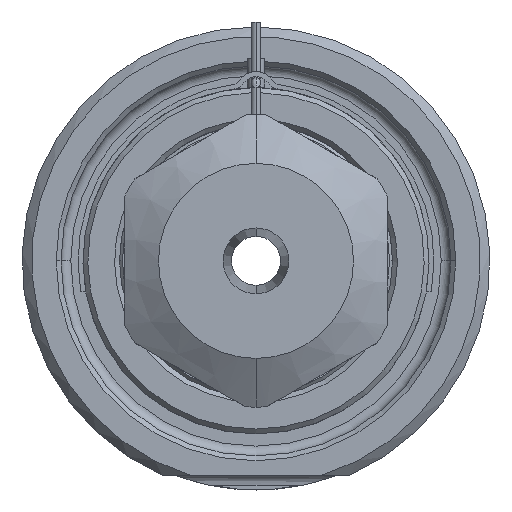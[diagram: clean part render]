
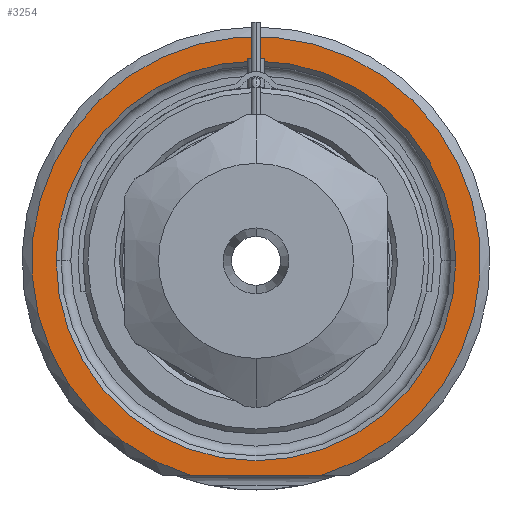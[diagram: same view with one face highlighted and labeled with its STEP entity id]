
A CAD part, front view. The second image highlights one B-rep face of the part: STEP entity #3254.
In plain terms, the highlighted planar face has unit normal (0, -1, 0).
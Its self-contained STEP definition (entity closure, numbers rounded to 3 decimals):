
#1=DIRECTION('',(1.,0.,0.));
#2=VECTOR('',#1,13.416);
#3=CARTESIAN_POINT('',(-6.708,0.,-22.));
#4=LINE('',#3,#2);
#5=CARTESIAN_POINT('',(0.,0.,0.));
#6=DIRECTION('',(0.,1.,0.));
#7=DIRECTION('',(-1.,0.,0.));
#8=AXIS2_PLACEMENT_3D('',#5,#6,#7);
#10=CARTESIAN_POINT('',(0.,0.,0.));
#11=DIRECTION('',(0.,1.,0.));
#12=DIRECTION('',(1.,0.,0.));
#13=AXIS2_PLACEMENT_3D('',#10,#11,#12);
#121=CARTESIAN_POINT('',(0.,0.,0.));
#122=DIRECTION('',(0.,-1.,0.));
#123=DIRECTION('',(0.292,0.,-0.957));
#124=AXIS2_PLACEMENT_3D('',#121,#122,#123);
#2703=CARTESIAN_POINT('',(-20.5,0.,0.));
#2704=CARTESIAN_POINT('',(20.5,0.,0.));
#2705=VERTEX_POINT('',#2703);
#2706=VERTEX_POINT('',#2704);
#2743=CARTESIAN_POINT('',(-6.708,0.,-22.));
#2744=CARTESIAN_POINT('',(6.708,0.,-22.));
#2745=VERTEX_POINT('',#2743);
#2746=VERTEX_POINT('',#2744);
#3237=CARTESIAN_POINT('',(0.,0.,0.));
#3238=DIRECTION('',(0.,-1.,0.));
#3239=DIRECTION('',(1.,0.,0.));
#3240=AXIS2_PLACEMENT_3D('',#3237,#3238,#3239);
#3241=PLANE('',#3240);
#3243=ORIENTED_EDGE('',*,*,#3242,.F.);
#3245=ORIENTED_EDGE('',*,*,#3244,.F.);
#3246=EDGE_LOOP('',(#3243,#3245));
#3247=FACE_OUTER_BOUND('',#3246,.F.);
#3249=ORIENTED_EDGE('',*,*,#3248,.F.);
#3251=ORIENTED_EDGE('',*,*,#3250,.F.);
#3252=EDGE_LOOP('',(#3249,#3251));
#3253=FACE_BOUND('',#3252,.F.);
#3254=ADVANCED_FACE('',(#3247,#3253),#3241,.T.);
#9=CIRCLE('',#8,20.5);
#14=CIRCLE('',#13,20.5);
#125=CIRCLE('',#124,23.);
#3242=EDGE_CURVE('',#2745,#2746,#4,.T.);
#3244=EDGE_CURVE('',#2746,#2745,#125,.T.);
#3248=EDGE_CURVE('',#2705,#2706,#9,.T.);
#3250=EDGE_CURVE('',#2706,#2705,#14,.T.);
